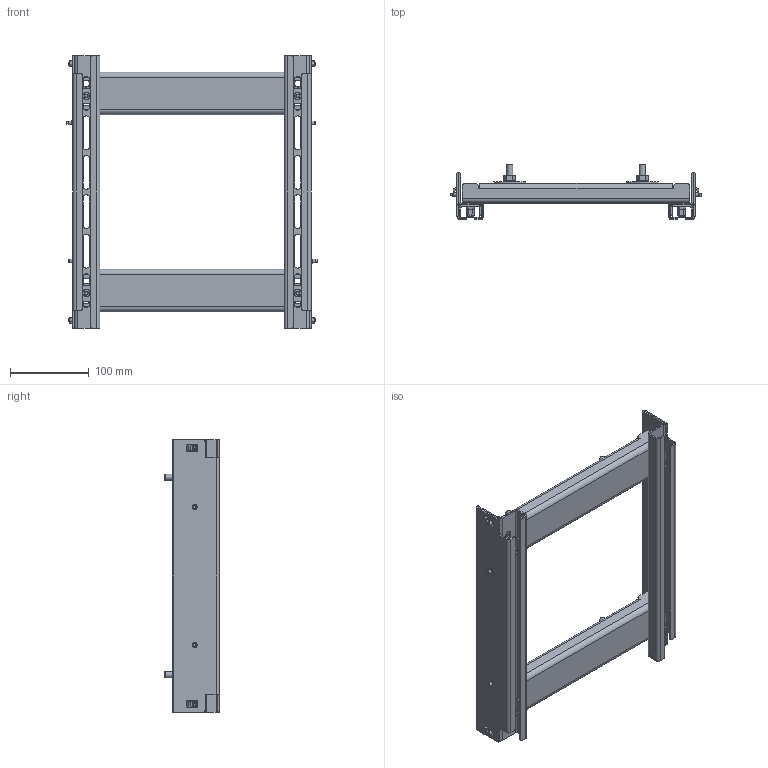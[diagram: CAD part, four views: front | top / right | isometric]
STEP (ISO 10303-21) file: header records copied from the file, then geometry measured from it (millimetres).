
FILE_DESCRIPTION(('STEP AP203'), '1');
FILE_NAME('3557 Êîìïëåêò äëÿ óñòàíîâêè òÿæåëîãî îáîðóäîâàíèÿ', '', ('UNSPECIFIED'), ('UNSPECIFIED'), 'C3D Converter', 'C3D Toolkit', '');
FILE_SCHEMA(('CONFIG_CONTROL_DESIGN'));
Length unit declared in the file: millimetre
Products named in the file (16): 3557.40.40; 3607.40; 3507.40; 2541; 2542; 3555; 3556
Assembly tree (39 placements, depth 4):
  3557.40.40
    3607.40  x2
    3507.40  x2
    2541  x4
      2542
        (unnamed)
      (unnamed)
      (unnamed)
      (unnamed)
    3555  x4
      3556
      (unnamed)
    (unnamed)  x4
    (unnamed)  x4
    (unnamed)  x4
    (unnamed)  x8
Bounding box: 317.2 x 69 x 345 mm (x, y, z)
Volume: 454963.9 mm3; surface area: 402712.5 mm2
Topology: 52 solids, 52 shells, 1248 faces, 3092 edges, 2012 vertices
Faces by surface type: plane 844, cylinder 336, cone 64, torus 4
Full cylindrical faces by diameter (mm): 4.917 x4, 5 x8, 6 x4, 6.4 x4, 6.5 x4, 6.917 x4, 7.6 x4, 8 x8, 8.3 x4, 8.5 x4, 9.2 x8, 12 x8, 40 x4
Entity records: 16984 total; most frequent: CARTESIAN_POINT 5928, DIRECTION 2052, ORIENTED_EDGE 1838, EDGE_CURVE 919, AXIS2_PLACEMENT_3D 715, LINE 622, VECTOR 622, VERTEX_POINT 585
